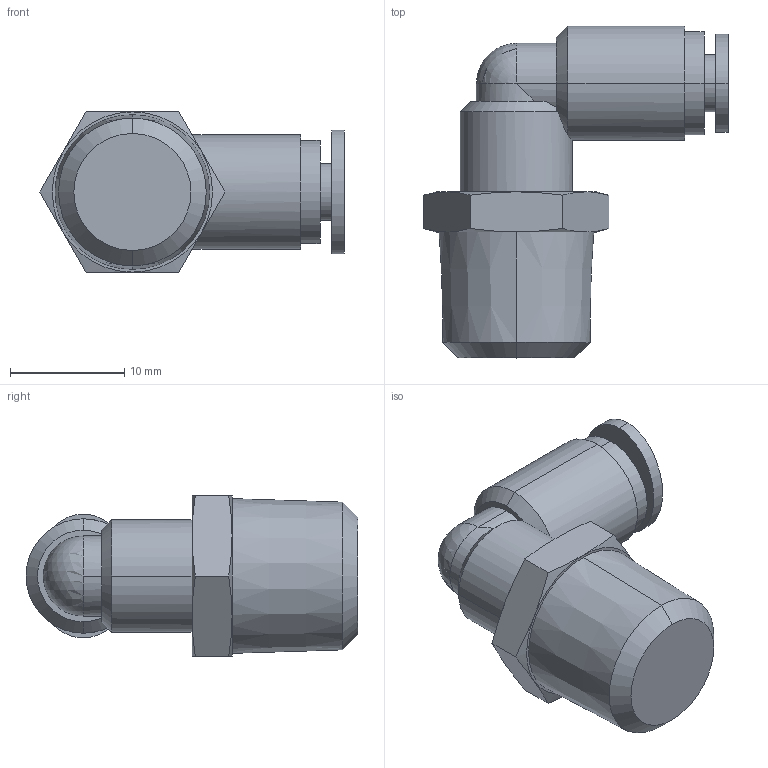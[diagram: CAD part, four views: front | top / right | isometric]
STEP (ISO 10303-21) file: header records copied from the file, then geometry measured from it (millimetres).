
FILE_DESCRIPTION (( 'STEP AP214' ), '1' );
FILE_NAME ('APL4-02.STEP', '2019-11-22T02:23:19', ( '微软用户' ), ( '微软中国' ), 'SwSTEP 2.0', 'SolidWorks 2016', '' );
FILE_SCHEMA (( 'AUTOMOTIVE_DESIGN' ));
Length unit declared in the file: millimetre
Products named in the file (1): APL4-02
Bounding box: 26.58 x 29 x 14 mm (x, y, z)
Volume: 3685.9 mm3; surface area: 2014.3 mm2
Topology: 1 solids, 1 shells, 54 faces, 122 edges, 74 vertices
Faces by surface type: cone 20, plane 16, cylinder 15, bspline 2, sphere 1
Entity records: 1589 total; most frequent: CARTESIAN_POINT 407, ORIENTED_EDGE 240, DIRECTION 237, EDGE_CURVE 120, AXIS2_PLACEMENT_3D 104, VERTEX_POINT 74, EDGE_LOOP 60, FACE_OUTER_BOUND 54
